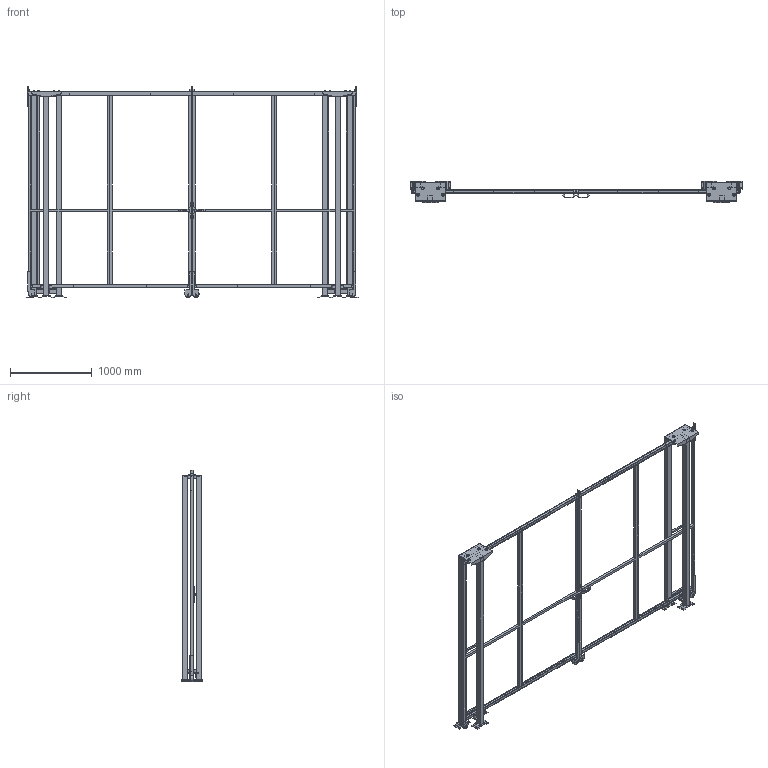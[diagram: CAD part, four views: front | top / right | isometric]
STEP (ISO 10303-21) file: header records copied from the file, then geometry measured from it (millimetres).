
FILE_DESCRIPTION(/* description */ (''),/* implementation_level */ '2;1');
FILE_NAME(/* name */ 'C:\SafeGuarding\ELABORATI\KLADKA2KR_2025-03-25-13-12-05.stp',/* time_stamp */ '2025-03-25T13:12:07+01:00',/* author */ ('admin'),/* organization */ (''),/* preprocessor_version */ 'ST-DEVELOPER v18.1',/* originating_system */ 'AutoCAD Mechanical',/* authorisation */ '');
FILE_SCHEMA (('AUTOMOTIVE_DESIGN { 1 0 10303 214 3 1 1 }'));
Length unit declared in the file: millimetre
Products named in the file (4): Product; VFPA.REPE30.10002400; VFPA.REPE2002502400; P_VFMA.V260SDU.2520
Assembly tree (12 placements, depth 2):
  Product
    VFPA.REPE30.10002400  x4
    P_VFMA.V260SDU.2520  x6
    VFPA.REPE2002502400  x2
Bounding box: 4071.38 x 264 x 2590.02 mm (x, y, z)
Volume: 92548353.5 mm3; surface area: 12607247.5 mm2
Topology: 84 solids, 106 shells, 850 faces, 2817 edges, 2805 vertices
Faces by surface type: plane 774, cylinder 76
Full cylindrical faces by diameter (mm): 9 x8, 11 x24, 13 x8, 14 x4, 30 x12, 36 x16, 80 x4
Entity records: 21855 total; most frequent: CARTESIAN_POINT 4558, DIRECTION 3334, ORIENTED_EDGE 3156, EDGE_CURVE 1676, LINE 1528, VECTOR 1528, VERTEX_POINT 1196, AXIS2_PLACEMENT_3D 903
